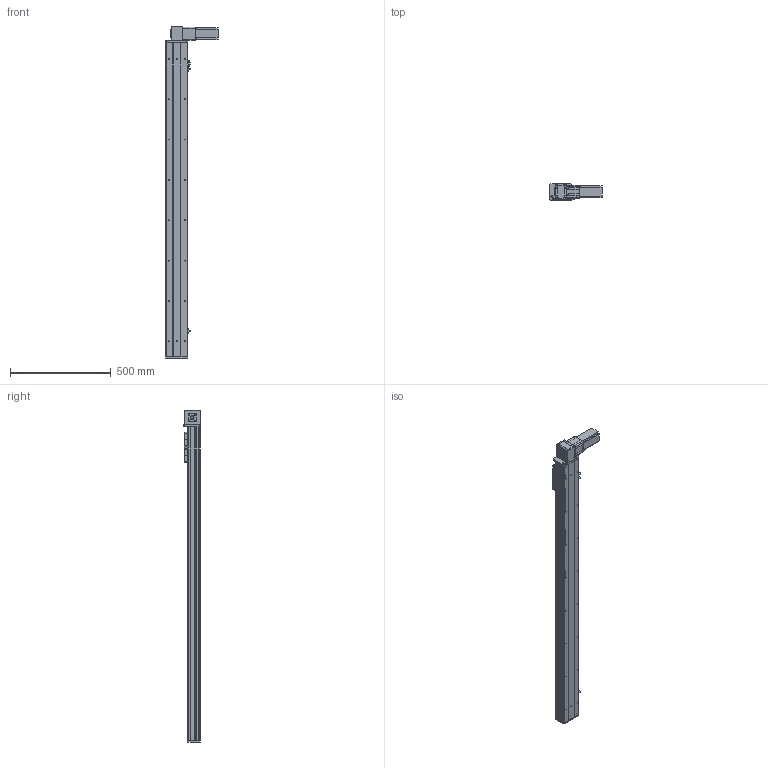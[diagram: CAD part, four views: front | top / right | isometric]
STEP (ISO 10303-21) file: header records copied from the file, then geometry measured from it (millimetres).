
FILE_DESCRIPTION (( 'STEP AP203' ), '1' );
FILE_NAME ('Y10CB-D90-S1300-BD-P400W.STEP', '2020-02-17T02:39:25', ( '微软用户' ), ( '微软中国' ), 'SwSTEP 2.0', 'SolidWorks 2017', '' );
FILE_SCHEMA (( 'CONFIG_CONTROL_DESIGN' ));
Length unit declared in the file: millimetre
Products named in the file (16): Y10C---詩湍揤啣; 0CB-雄赽釱---; 10CB9-掛极; 0Cb-俋欶---; 10CB-耜裔; Y10B-々湍喘謫眊楊擘啣--; Y135C-陔俋离換覜結え-; san松下电机400不带刹车----; Y100-135俋离換覜ん--; 0B-源倛裔啣; Y10B--々湍喘謫眊--666; 0B-埴倛裔啣; 0B-薊粣ん眊; 10CB-詩湍-; Y10CB-D90-S1300-BD-P400W; Y10CB- 掛极耜裔啣-毀---
Assembly tree (19 placements, depth 2):
  Y10CB-D90-S1300-BD-P400W
    0CB-雄赽釱---
    0Cb-俋欶---
    Y10B-々湍喘謫眊楊擘啣--
    san松下电机400不带刹车----
    0B-源倛裔啣
    0B-埴倛裔啣
    10CB-詩湍-
    Y10CB- 掛极耜裔啣-毀---  x2
    Y10C---詩湍揤啣  x2
    10CB9-掛极
    10CB-耜裔
    Y135C-陔俋离換覜結え-
    Y100-135俋离換覜ん--  x3
    Y10B--々湍喘謫眊--666
    0B-薊粣ん眊
Bounding box: 258 x 80.5 x 1646 mm (x, y, z)
Volume: 3659899.2 mm3; surface area: 1631835.2 mm2
Topology: 19 solids, 19 shells, 912 faces, 2422 edges, 1580 vertices
Faces by surface type: cylinder 450, plane 438, cone 24
Entity records: 28069 total; most frequent: CARTESIAN_POINT 5052, DIRECTION 4525, ORIENTED_EDGE 4314, EDGE_CURVE 2157, AXIS2_PLACEMENT_3D 1623, VERTEX_POINT 1406, VECTOR 1279, LINE 1279
